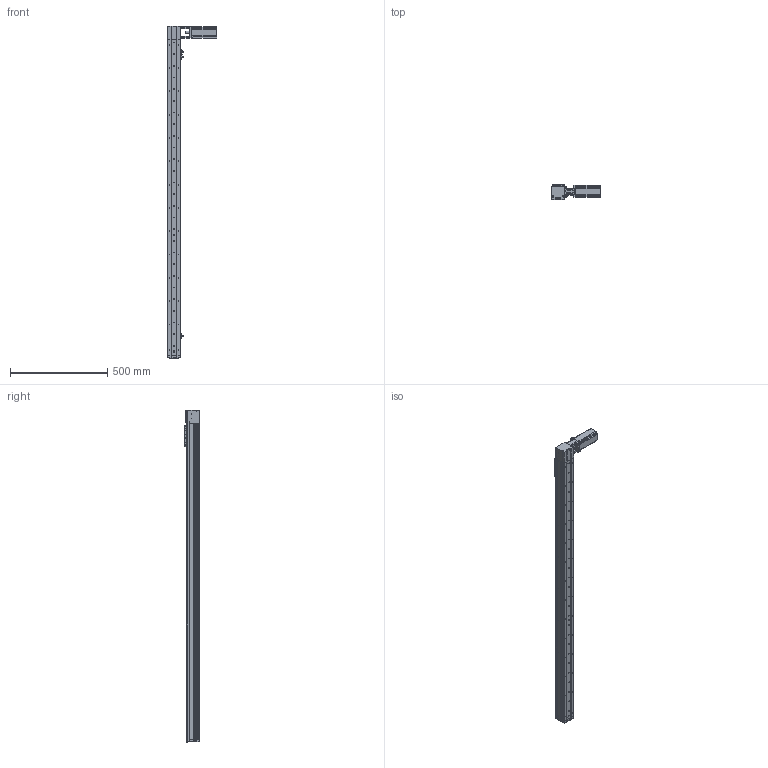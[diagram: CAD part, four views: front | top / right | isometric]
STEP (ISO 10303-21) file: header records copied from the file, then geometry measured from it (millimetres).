
FILE_DESCRIPTION (( 'STEP AP214' ), '1' );
FILE_NAME ('KSD68BS-S1450-MRT-CR.STEP', '2019-11-07T06:54:42', ( '微软用户' ), ( '微软中国' ), 'SwSTEP 2.0', 'SolidWorks 2014', '' );
FILE_SCHEMA (( 'AUTOMOTIVE_DESIGN' ));
Length unit declared in the file: millimetre
Products named in the file (13): 100遵鎮湛假蚾啣1; KSD68BS 1450行程盖板全封闭; 68遵裔啣揤啣1; 68宽单导轨全封闭丝杆传动安装板1防护罩; KSD68BS 1450行程侧板全封闭; 68宽单导轨全封闭同步带端板; 68单导轨全封闭同步带电机座左; 68单导轨全封闭同步带安装板; 感应片68宽全封闭; U倰嫖萇EEㄜSX672; 台达ECMA－C20604AS伺服电机（400W); KSD68BS 1450行程底板全封闭; KSD68BS-S1450-MRT-CR
Assembly tree (16 placements, depth 2):
  KSD68BS-S1450-MRT-CR
    KSD68BS 1450行程底板全封闭
    台达ECMA－C20604AS伺服电机（400W)
    U倰嫖萇EEㄜSX672  x3
    感应片68宽全封闭
    68单导轨全封闭同步带安装板
    68单导轨全封闭同步带电机座左
    68宽单导轨全封闭同步带端板
    KSD68BS 1450行程侧板全封闭  x2
    68宽单导轨全封闭丝杆传动安装板1防护罩
    68遵裔啣揤啣1  x2
    KSD68BS 1450行程盖板全封闭
    100遵鎮湛假蚾啣1
Bounding box: 252.7 x 77 x 1708.1 mm (x, y, z)
Volume: 3091083.6 mm3; surface area: 1219938.6 mm2
Topology: 17 solids, 17 shells, 1531 faces, 4404 edges, 2804 vertices
Faces by surface type: cylinder 745, plane 602, cone 184
Entity records: 49778 total; most frequent: CARTESIAN_POINT 8649, DIRECTION 7343, ORIENTED_EDGE 7028, EDGE_CURVE 3514, AXIS2_PLACEMENT_3D 2678, VERTEX_POINT 2302, LINE 1987, VECTOR 1987
